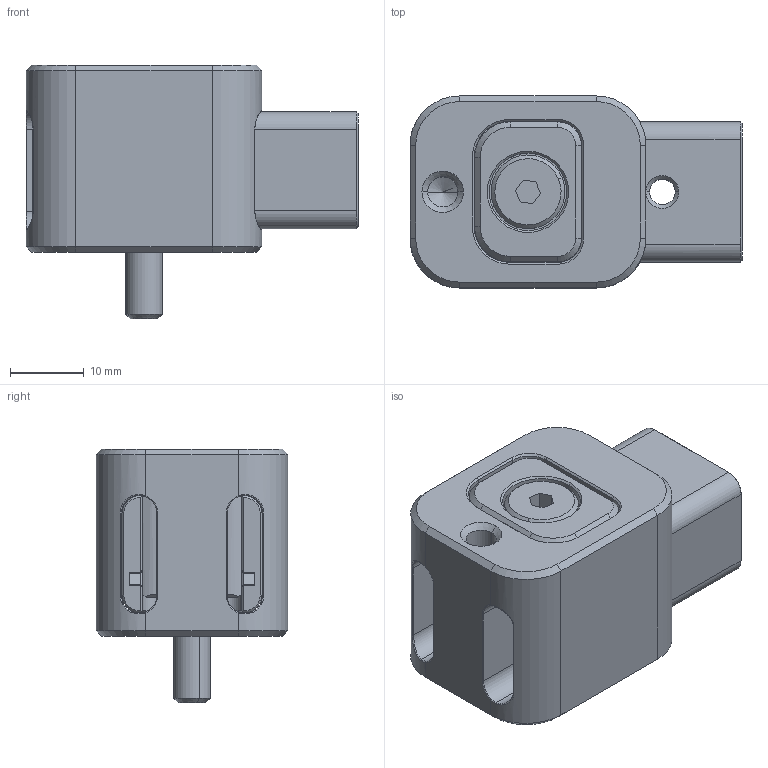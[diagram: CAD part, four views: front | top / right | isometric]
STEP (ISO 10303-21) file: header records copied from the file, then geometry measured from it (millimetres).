
FILE_DESCRIPTION (( 'STEP AP203' ), '1' );
FILE_NAME ('CAMM-100.STEP', '2011-05-10T19:44:21', ( '' ), ( '' ), 'SwSTEP 2.0', 'SolidWorks 2010', '' );
FILE_SCHEMA (( 'CONFIG_CONTROL_DESIGN' ));
Length unit declared in the file: millimetre
Products named in the file (5): CAMM-100-H; CAMM-100-D; SH-BOLT_M5X-19shoulder-length; CAMM-100-S; CAMM-100
Assembly tree (4 placements, depth 2):
  CAMM-100
    CAMM-100-S
    CAMM-100-D
    CAMM-100-H
    SH-BOLT_M5X-19shoulder-length
Bounding box: 45 x 26 x 34.41 mm (x, y, z)
Volume: 18364.7 mm3; surface area: 12968.8 mm2
Topology: 4 solids, 4 shells, 330 faces, 800 edges, 478 vertices
Faces by surface type: plane 160, cylinder 76, cone 62, torus 16, bspline 16
Entity records: 12112 total; most frequent: CARTESIAN_POINT 3905, DIRECTION 1619, ORIENTED_EDGE 1592, EDGE_CURVE 796, AXIS2_PLACEMENT_3D 556, VECTOR 507, LINE 507, VERTEX_POINT 478
